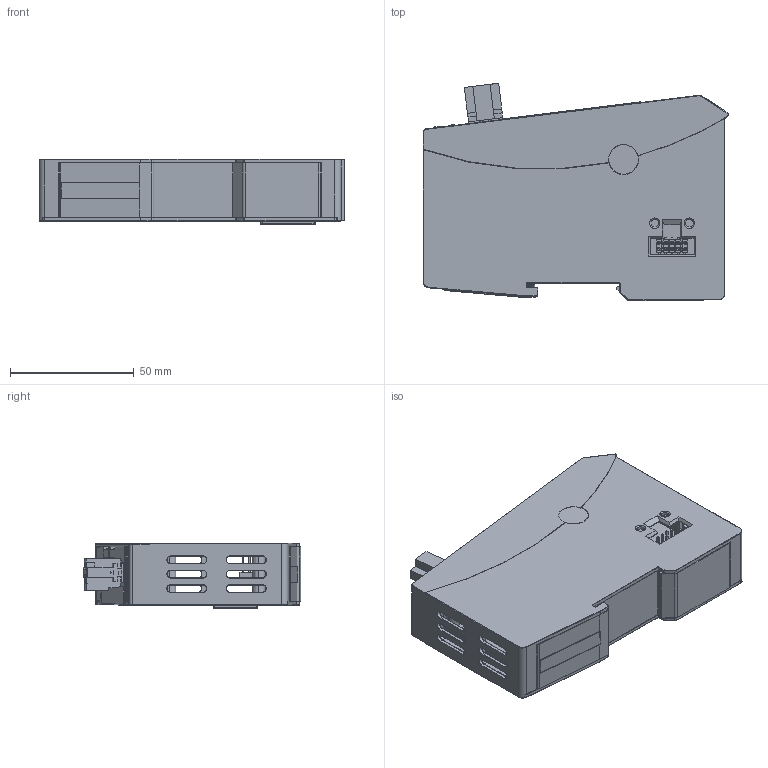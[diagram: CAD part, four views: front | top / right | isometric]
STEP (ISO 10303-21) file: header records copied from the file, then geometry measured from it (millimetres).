
FILE_DESCRIPTION(('CATIA V5 STEP Exchange'),'2;1');
FILE_NAME('Z:\DE\Automation\Data\Exchange\Dreiack\#694_Parker\3D-Daten 694\694_coupler.stp','2014-05-09T07:52:57+00:00',('none'),('none'),'CATIA Version 5 Release 19 SP 9 (IN-10)','CATIA V5 STEP AP214','none');
FILE_SCHEMA(('AUTOMOTIVE_DESIGN { 1 0 10303 214 1 1 1 1 }'));
Products named in the file (1): KEB-IO_coupler_059
Bounding box: 123.57 x 87.85 x 26.5 mm (x, y, z)
Volume: 71383 mm3; surface area: 87789.5 mm2
Topology: 2 solids, 20 shells, 3980 faces, 10654 edges, 6698 vertices
Faces by surface type: plane 2318, cylinder 1162, torus 279, cone 122, sphere 67, bspline 28, revolution 4
Entity records: 122985 total; most frequent: CARTESIAN_POINT 30411, ORIENTED_EDGE 21156, DIRECTION 15417, EDGE_CURVE 10578, VECTOR 7058, LINE 7058, VERTEX_POINT 6698, AXIS2_PLACEMENT_3D 5535
